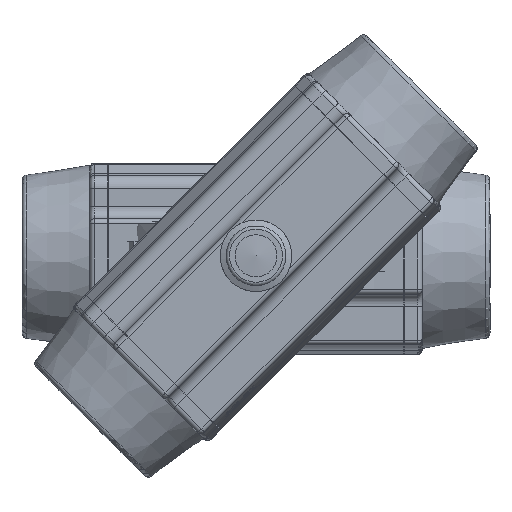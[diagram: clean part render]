
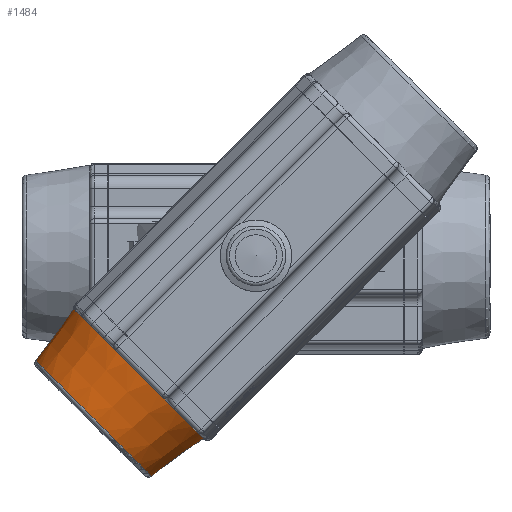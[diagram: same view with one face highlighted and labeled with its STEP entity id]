
A CAD part, top view. The second image highlights one B-rep face of the part: STEP entity #1484.
In plain terms, the highlighted conical face has half-angle 9 degrees and reference radius 109 mm.
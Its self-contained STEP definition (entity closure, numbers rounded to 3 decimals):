
#1484 = ADVANCED_FACE( '', ( #3199, #3200 ), #3201, .T. );
#3199 = FACE_BOUND( '', #8276, .T. );
#3200 = FACE_OUTER_BOUND( '', #8277, .T. );
#3201 = CONICAL_SURFACE( '', #8278, 109., 0.157 );
#8276 = EDGE_LOOP( '', ( #14059 ) );
#8277 = EDGE_LOOP( '', ( #14060, #14061, #14062, #14063, #14064, #14065, #14066, #14067, #14068, #14069, #14070, #14071 ) );
#8278 = AXIS2_PLACEMENT_3D( '', #14072, #14073, #14074 );
#14059 = ORIENTED_EDGE( '', *, *, #16629, .T. );
#14060 = ORIENTED_EDGE( '', *, *, #16126, .T. );
#14061 = ORIENTED_EDGE( '', *, *, #17432, .T. );
#14062 = ORIENTED_EDGE( '', *, *, #17383, .T. );
#14063 = ORIENTED_EDGE( '', *, *, #16235, .T. );
#14064 = ORIENTED_EDGE( '', *, *, #16588, .T. );
#14065 = ORIENTED_EDGE( '', *, *, #17531, .T. );
#14066 = ORIENTED_EDGE( '', *, *, #16994, .T. );
#14067 = ORIENTED_EDGE( '', *, *, #16770, .T. );
#14068 = ORIENTED_EDGE( '', *, *, #17532, .T. );
#14069 = ORIENTED_EDGE( '', *, *, #16845, .T. );
#14070 = ORIENTED_EDGE( '', *, *, #17393, .T. );
#14071 = ORIENTED_EDGE( '', *, *, #17522, .T. );
#14072 = CARTESIAN_POINT( '', ( -197.5, 0., 0. ) );
#14073 = DIRECTION( '', ( 1., 0., 0. ) );
#14074 = DIRECTION( '', ( 0., 0., 1. ) );
#16126 = EDGE_CURVE( '', #18344, #18349, #18351, .T. );
#16235 = EDGE_CURVE( '', #18539, #18537, #18540, .T. );
#16588 = EDGE_CURVE( '', #18537, #19107, #19109, .T. );
#16629 = EDGE_CURVE( '', #19172, #19172, #19173, .T. );
#16770 = EDGE_CURVE( '', #19389, #19390, #19391, .T. );
#16845 = EDGE_CURVE( '', #19506, #19508, #19510, .T. );
#16994 = EDGE_CURVE( '', #19733, #19389, #19734, .T. );
#17383 = EDGE_CURVE( '', #20274, #18539, #20275, .T. );
#17393 = EDGE_CURVE( '', #19508, #20284, #20286, .T. );
#17432 = EDGE_CURVE( '', #18349, #20274, #20337, .T. );
#17522 = EDGE_CURVE( '', #20284, #18344, #20446, .T. );
#17531 = EDGE_CURVE( '', #19107, #19733, #20455, .T. );
#17532 = EDGE_CURVE( '', #19390, #19506, #20456, .T. );
#18344 = VERTEX_POINT( '', #22444 );
#18349 = VERTEX_POINT( '', #22465 );
#18351 = CIRCLE( '', #22467, 109. );
#18537 = VERTEX_POINT( '', #22842 );
#18539 = VERTEX_POINT( '', #22844 );
#18540 = CIRCLE( '', #22845, 109. );
#19107 = VERTEX_POINT( '', #24869 );
#19109 = CIRCLE( '', #24871, 109. );
#19172 = VERTEX_POINT( '', #25133 );
#19173 = CIRCLE( '', #25134, 97.052 );
#19389 = VERTEX_POINT( '', #25869 );
#19390 = VERTEX_POINT( '', #25870 );
#19391 = CIRCLE( '', #25871, 109. );
#19506 = VERTEX_POINT( '', #26081 );
#19508 = VERTEX_POINT( '', #26083 );
#19510 = CIRCLE( '', #26085, 109. );
#19733 = VERTEX_POINT( '', #26766 );
#19734 = CIRCLE( '', #26767, 109. );
#20274 = VERTEX_POINT( '', #28782 );
#20275 = CIRCLE( '', #28783, 109. );
#20284 = VERTEX_POINT( '', #28844 );
#20286 = CIRCLE( '', #28861, 109. );
#20337 = CIRCLE( '', #28962, 109. );
#20446 = CIRCLE( '', #29286, 109. );
#20455 = CIRCLE( '', #29299, 109. );
#20456 = CIRCLE( '', #29300, 109. );
#22444 = CARTESIAN_POINT( '', ( -197.5, 90.755, 60.371 ) );
#22465 = CARTESIAN_POINT( '', ( -197.5, 94.979, 53.478 ) );
#22467 = AXIS2_PLACEMENT_3D( '', #30800, #30801, #30802 );
#22842 = CARTESIAN_POINT( '', ( -197.5, 105.686, -26.673 ) );
#22844 = CARTESIAN_POINT( '', ( -197.5, 105.686, 26.673 ) );
#22845 = AXIS2_PLACEMENT_3D( '', #30927, #30928, #30929 );
#24869 = CARTESIAN_POINT( '', ( -197.5, 104.704, -30.301 ) );
#24871 = AXIS2_PLACEMENT_3D( '', #31262, #31263, #31264 );
#25133 = CARTESIAN_POINT( '', ( -272.939, 0., -97.052 ) );
#25134 = AXIS2_PLACEMENT_3D( '', #31307, #31308, #31309 );
#25869 = CARTESIAN_POINT( '', ( -197.5, 91.565, -59.134 ) );
#25870 = CARTESIAN_POINT( '', ( -197.5, -107.608, -17.367 ) );
#25871 = AXIS2_PLACEMENT_3D( '', #31442, #31443, #31444 );
#26081 = CARTESIAN_POINT( '', ( -197.5, -108.936, -3.73 ) );
#26083 = CARTESIAN_POINT( '', ( -197.5, -108.989, 1.563 ) );
#26085 = AXIS2_PLACEMENT_3D( '', #31576, #31577, #31578 );
#26766 = CARTESIAN_POINT( '', ( -197.5, 93.345, -56.282 ) );
#26767 = AXIS2_PLACEMENT_3D( '', #31754, #31755, #31756 );
#28782 = CARTESIAN_POINT( '', ( -197.5, 104.603, 30.647 ) );
#28783 = AXIS2_PLACEMENT_3D( '', #32121, #32122, #32123 );
#28844 = CARTESIAN_POINT( '', ( -197.5, -98.5, 46.677 ) );
#28861 = AXIS2_PLACEMENT_3D( '', #32130, #32131, #32132 );
#28962 = AXIS2_PLACEMENT_3D( '', #32171, #32172, #32173 );
#29286 = AXIS2_PLACEMENT_3D( '', #32268, #32269, #32270 );
#29299 = AXIS2_PLACEMENT_3D( '', #32278, #32279, #32280 );
#29300 = AXIS2_PLACEMENT_3D( '', #32281, #32282, #32283 );
#30800 = CARTESIAN_POINT( '', ( -197.5, 0., 0. ) );
#30801 = DIRECTION( '', ( -1., 0., 0. ) );
#30802 = DIRECTION( '', ( 0., 0., 1. ) );
#30927 = CARTESIAN_POINT( '', ( -197.5, 0., 0. ) );
#30928 = DIRECTION( '', ( -1., 0., 0. ) );
#30929 = DIRECTION( '', ( 0., 0., 1. ) );
#31262 = CARTESIAN_POINT( '', ( -197.5, 0., 0. ) );
#31263 = DIRECTION( '', ( -1., 0., 0. ) );
#31264 = DIRECTION( '', ( 0., 0., 1. ) );
#31307 = CARTESIAN_POINT( '', ( -272.939, 0., 0. ) );
#31308 = DIRECTION( '', ( 1., 0., 0. ) );
#31309 = DIRECTION( '', ( 0., 0., -1. ) );
#31442 = CARTESIAN_POINT( '', ( -197.5, 0., 0. ) );
#31443 = DIRECTION( '', ( -1., 0., 0. ) );
#31444 = DIRECTION( '', ( 0., 0., 1. ) );
#31576 = CARTESIAN_POINT( '', ( -197.5, 0., 0. ) );
#31577 = DIRECTION( '', ( -1., 0., 0. ) );
#31578 = DIRECTION( '', ( 0., 0., 1. ) );
#31754 = CARTESIAN_POINT( '', ( -197.5, 0., 0. ) );
#31755 = DIRECTION( '', ( -1., 0., 0. ) );
#31756 = DIRECTION( '', ( 0., 0., 1. ) );
#32121 = CARTESIAN_POINT( '', ( -197.5, 0., 0. ) );
#32122 = DIRECTION( '', ( -1., 0., 0. ) );
#32123 = DIRECTION( '', ( 0., 0., 1. ) );
#32130 = CARTESIAN_POINT( '', ( -197.5, 0., 0. ) );
#32131 = DIRECTION( '', ( -1., 0., 0. ) );
#32132 = DIRECTION( '', ( 0., 0., 1. ) );
#32171 = CARTESIAN_POINT( '', ( -197.5, 0., 0. ) );
#32172 = DIRECTION( '', ( -1., 0., 0. ) );
#32173 = DIRECTION( '', ( 0., 0., 1. ) );
#32268 = CARTESIAN_POINT( '', ( -197.5, 0., 0. ) );
#32269 = DIRECTION( '', ( -1., 0., 0. ) );
#32270 = DIRECTION( '', ( 0., 0., 1. ) );
#32278 = CARTESIAN_POINT( '', ( -197.5, 0., 0. ) );
#32279 = DIRECTION( '', ( -1., 0., 0. ) );
#32280 = DIRECTION( '', ( 0., 0., 1. ) );
#32281 = CARTESIAN_POINT( '', ( -197.5, 0., 0. ) );
#32282 = DIRECTION( '', ( -1., 0., 0. ) );
#32283 = DIRECTION( '', ( 0., 0., 1. ) );
